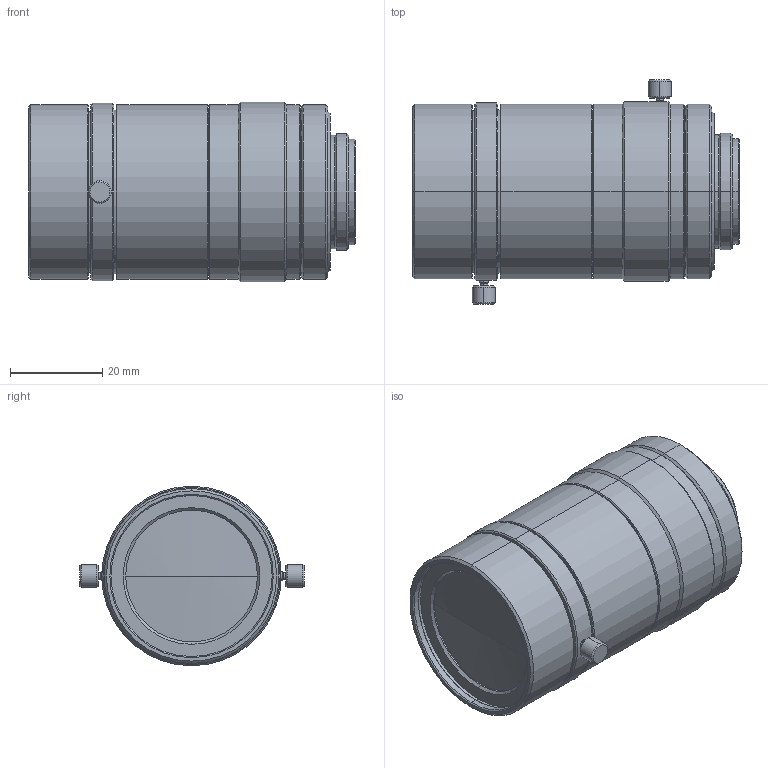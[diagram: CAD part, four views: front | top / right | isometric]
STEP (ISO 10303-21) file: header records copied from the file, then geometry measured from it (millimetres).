
FILE_DESCRIPTION (( 'STEP AP203' ), '1' );
FILE_NAME ('VS-LDV16.STEP', '2022-05-11T04:49:17', ( '' ), ( '' ), 'SwSTEP 2.0', 'SolidWorks 2021', '' );
FILE_SCHEMA (( 'CONFIG_CONTROL_DESIGN' ));
Length unit declared in the file: millimetre
Products named in the file (1): VS-LDV16
Bounding box: 71 x 48.8 x 39 mm (x, y, z)
Volume: 73773.9 mm3; surface area: 12589.3 mm2
Topology: 1 solids, 1 shells, 137 faces, 274 edges, 160 vertices
Faces by surface type: cone 68, cylinder 44, plane 21, sphere 4
Entity records: 3675 total; most frequent: DIRECTION 704, CARTESIAN_POINT 636, ORIENTED_EDGE 548, AXIS2_PLACEMENT_3D 296, EDGE_CURVE 274, VERTEX_POINT 160, EDGE_LOOP 158, CIRCLE 158
